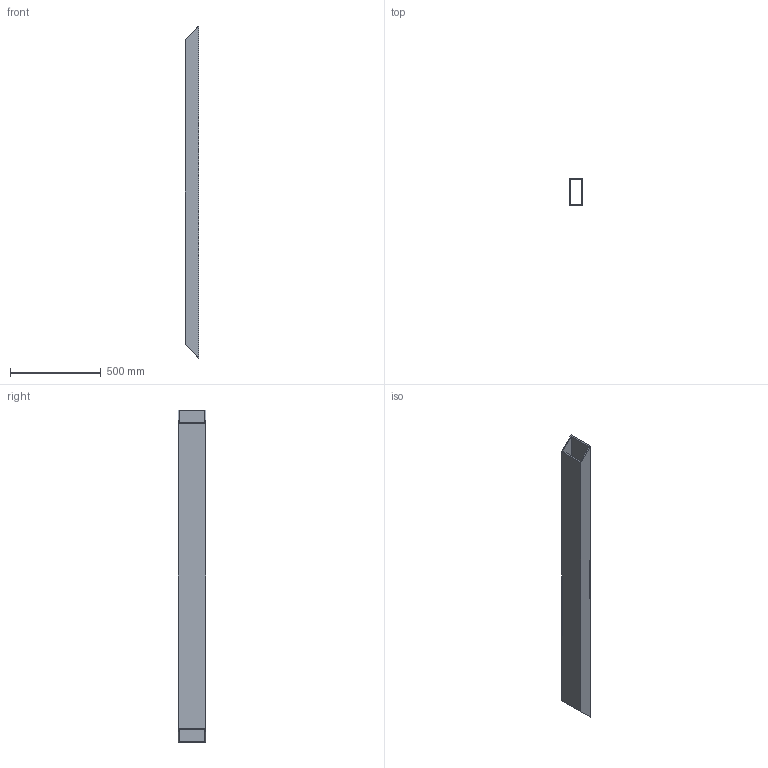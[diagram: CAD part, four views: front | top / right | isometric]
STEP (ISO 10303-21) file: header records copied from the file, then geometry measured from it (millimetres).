
FILE_DESCRIPTION(('Open CASCADE Model'),'2;1');
FILE_NAME('Open CASCADE Shape Model','2026-10-19T10:09:19',('Author'),( 'Open CASCADE'),'Open CASCADE STEP processor 8.0','Open CASCADE 8.0' ,'Unknown');
FILE_SCHEMA(('AUTOMOTIVE_DESIGN { 1 0 10303 214 1 1 1 1 }'));
Length unit declared in the file: millimetre
Products named in the file (1): RHS150x75x5_L1757000_CUT3ec3f6_P05 11
Bounding box: 75 x 150 x 1832 mm (x, y, z)
Volume: 3777550 mm3; surface area: 1517101.1 mm2
Topology: 1 solids, 1 shells, 10 faces, 24 edges, 16 vertices
Faces by surface type: plane 10
Entity records: 614 total; most frequent: CARTESIAN_POINT 99, DIRECTION 94, LINE 72, VECTOR 72, ORIENTED_EDGE 48, PCURVE 48, DEFINITIONAL_REPRESENTATION 48, EDGE_CURVE 24
